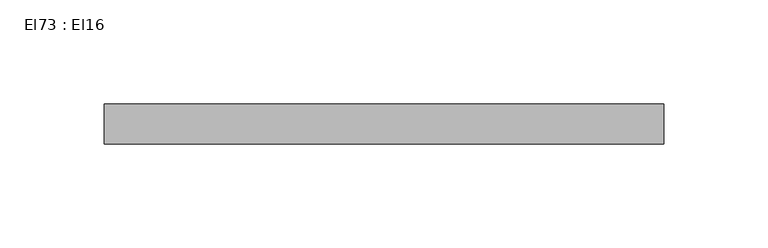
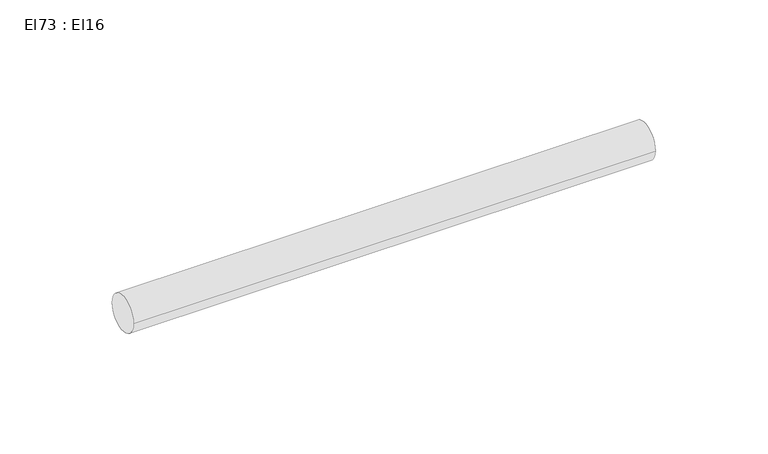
"""IFC4 building model written with IfcOpenShell, lengths in millimetres: cable carrier segment geometry, El73 : El16."""

from ifc_helpers import new_model, si_unit, point, frame, frame_2d, origin, place, context, project, spatial, circle_curve, trimmed, segment, composite_curve, outline, extrude, source, transform, mapped, element, save


def el73_el16_b7d81b3a(model_context):
    return source(origin(), model_context, "Body", "SweptSolid", [
        extrude(outline(composite_curve([segment(trimmed(circle_curve(frame_2d((4566.0121745, 2700.0)), 9.5), [point((4556.5121745, 2700.0))], [point((4575.5121745, 2700.0))], False, "CARTESIAN"), True, "CONTINUOUS"), segment(trimmed(circle_curve(frame_2d((4566.0121745, 2700.0)), 9.5), [point((4575.5121745, 2700.0))], [point((4556.5121745, 2700.0))], False, "CARTESIAN"), True, "CONTINUOUS")], self_intersect=False)), frame((3998.0166511, 0.0, 0.0), z_axis=(1.0, 0.0, 0.0), x_axis=(0.0, 1.0, 0.0)), (0.0, 0.0, 1.0), 267.936),
    ])


if __name__ == "__main__":
    model = new_model("IFC4")
    model_context = context("Model", 3, world=origin())
    ifc_project = project(units=[si_unit("LENGTHUNIT", "METRE", prefix="MILLI")], contexts=[model_context])
    site = spatial("IfcSite", under=ifc_project)
    building = spatial("IfcBuilding", under=site)
    placement = place(None, origin())
    el73_el16_shape = el73_el16_b7d81b3a(model_context)
    element("IfcCableCarrierSegment", 1, ObjectType="El73 : El16", at=placement, inside=building, context=model_context, shape_type="MappedRepresentation", body=[
        mapped(el73_el16_shape, transform((0.0, 0.0, 0.0), x_axis=(1.0, 0.0, 0.0), y_axis=(0.0, 1.0, 0.0), z_axis=(0.0, 0.0, 1.0))),
    ])
    save(model, "model.ifc")
